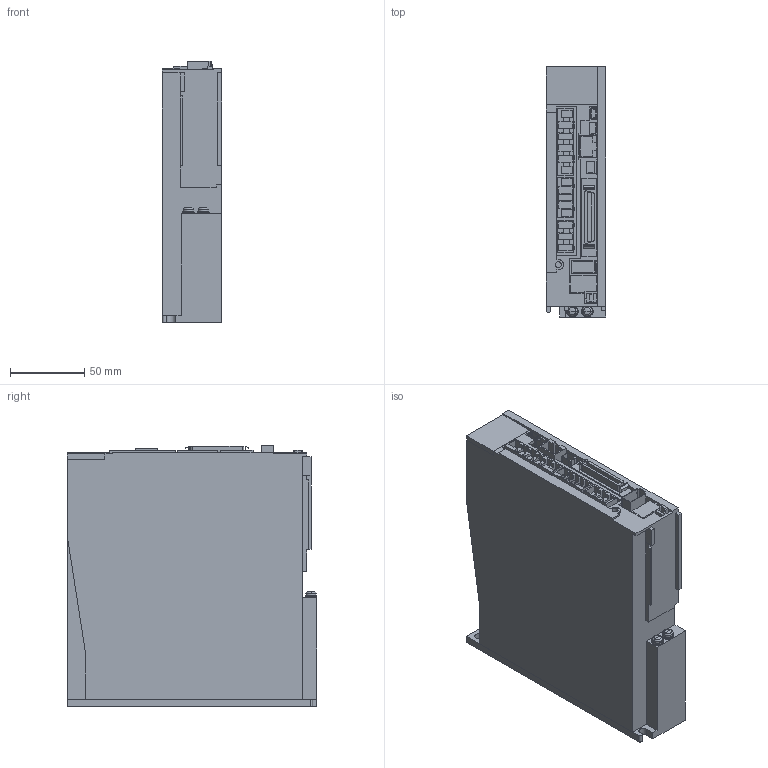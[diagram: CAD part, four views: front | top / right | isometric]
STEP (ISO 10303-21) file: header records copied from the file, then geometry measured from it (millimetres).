
FILE_DESCRIPTION((''),'2;1');
FILE_NAME('MR-J4-40AB_ASM','2012-10-31T',('CV86875'),(''),'PRO/ENGINEER BY PARAMETRIC TECHNOLOGY CORPORATION, 2010160','PRO/ENGINEER BY PARAMETRIC TECHNOLOGY CORPORATION, 2010160','');
FILE_SCHEMA(('CONFIG_CONTROL_DESIGN'));
Length unit declared in the file: millimetre
Products named in the file (15): J4-40-60-CHASSIS; J4-40-60B-CASE; J4-LENZ; J4A-CN1; J4A-CN2; J4A-CN3; J4A-CN4; J4A-CN5; J4A-CN6; J4A-CN8; J4-CNP1; J4-CNP2; J4-CNP3; SW-PW-P-NA-M4X12-PE; MR-J4-40AB_ASM
Assembly tree (15 placements, depth 2):
  MR-J4-40AB_ASM
    J4-40-60-CHASSIS
    J4-40-60B-CASE
    J4-LENZ
    J4A-CN1
    J4A-CN2
    J4A-CN3
    J4A-CN4
    J4A-CN5
    J4A-CN6
    J4A-CN8
    J4-CNP1
    J4-CNP2
    J4-CNP3
    SW-PW-P-NA-M4X12-PE  x2
Bounding box: 40 x 168 x 175.95 mm (x, y, z)
Volume: 245351.1 mm3; surface area: 178576.8 mm2
Topology: 15 solids, 15 shells, 459 faces, 1224 edges, 811 vertices
Faces by surface type: plane 402, cylinder 45, cone 4, torus 4, sphere 4
Entity records: 14006 total; most frequent: CARTESIAN_POINT 2455, ORIENTED_EDGE 2380, DIRECTION 2224, EDGE_CURVE 1190, VECTOR 1102, LINE 1102, VERTEX_POINT 792, AXIS2_PLACEMENT_3D 561
